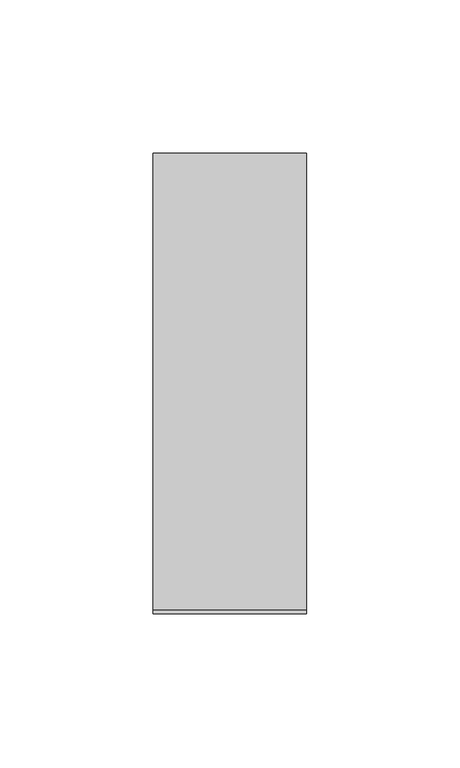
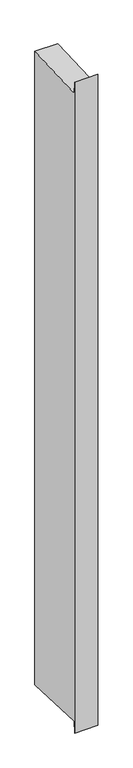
"""IFC4 building model written with IfcOpenShell, lengths in millimetres: member geometry, Прямоугольный импост : 50 x 150 мм."""

from ifc_helpers import new_model, si_unit, frame, origin, place, context, project, spatial, polyline, outline, extrude, source, transform, mapped, element, save


def member_d028df82(model_context):
    return source(origin(), model_context, "Body", "SweptSolid", [
        extrude(outline(polyline([(-75.0, 23.3099767), (-73.7977635, -3.3529557), (75.0, 3.3563625), (75.0, -1453.3563625), (-73.7977635, -1446.6470443), (-75.0, -1473.3099767), (-75.0, 23.3099767)])), frame((-50.0, 0.0, 0.0), z_axis=(1.0, 0.0, 0.0), x_axis=(0.0, 1.0, 0.0)), (0.0, 0.0, 1.0), 50.0),
    ])


if __name__ == "__main__":
    model = new_model("IFC4")
    model_context = context("Model", 3, world=origin())
    ifc_project = project(units=[si_unit("LENGTHUNIT", "METRE", prefix="MILLI")], contexts=[model_context])
    site = spatial("IfcSite", under=ifc_project)
    building = spatial("IfcBuilding", under=site)
    placement = place(None, origin())
    member_shape = member_d028df82(model_context)
    element("IfcMember", 1, ObjectType="Прямоугольный импост : 50 x 150 мм", at=placement, inside=building, context=model_context, shape_type="MappedRepresentation", body=[
        mapped(member_shape, transform((0.0, 0.0, 0.0), x_axis=(1.0, 0.0, 0.0), y_axis=(0.0, 1.0, 0.0), z_axis=(0.0, 0.0, 1.0))),
    ])
    save(model, "model.ifc")
